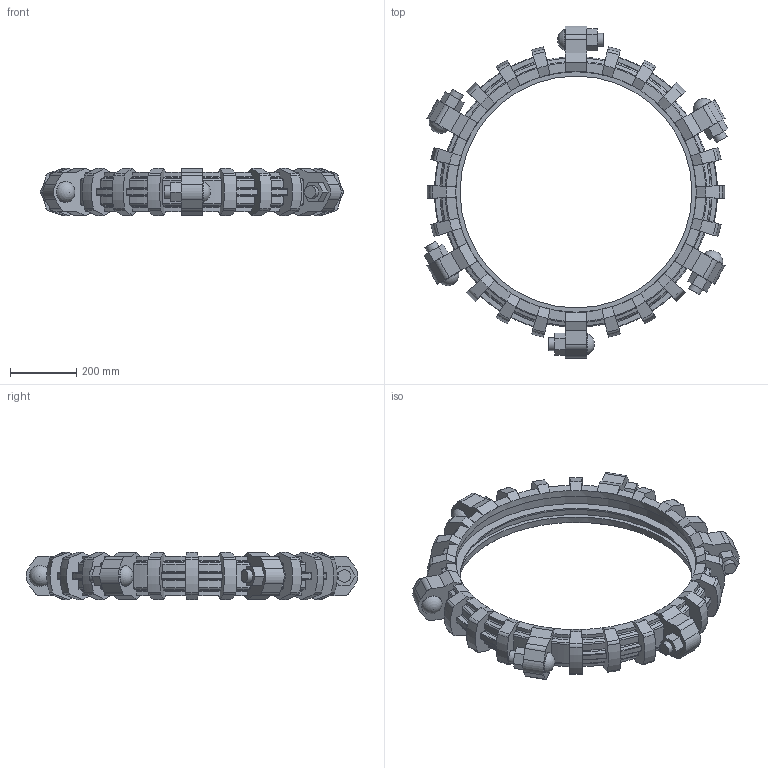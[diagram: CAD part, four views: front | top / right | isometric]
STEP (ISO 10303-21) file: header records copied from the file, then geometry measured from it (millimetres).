
FILE_DESCRIPTION(/* description */ ('VIC COUPLING STYLE 28','CAx-IF Rec.Pracs.---Representation and Presentation of Product Manufacturing Information (PMI)---4.0---2014-10-13'),/* implementation_level */ '2;1');
FILE_NAME(/* name */ 'C:\Users\kkamble\Desktop\KIRAN\2021\style 28\INVENTOR\Victaulic_Vic-Ring_Coupling Flexible_Style 28 (OGR)\Victaulic_Vic-Ring_Coupling Flexible_Style 28 (OGR)_27 (675).stp',/* time_stamp */ '2021-02-09T11:57:39+05:00',/* author */ ('jbrannon'),/* organization */ ('Victaulic'),/* preprocessor_version */ 'ST-DEVELOPER v17.2',/* originating_system */ 'Autodesk Inventor 2019',/* authorisation */ '');
FILE_SCHEMA (('AP242_MANAGED_MODEL_BASED_3D_ENGINEERING_MIM_LF { 1 0 10303 442 1 1 4 }'));
Length unit declared in the file: inch
Products named in the file (1): 28-27.0
Bounding box: 915.98 x 1000.45 x 142.24 mm (x, y, z)
Volume: 18359413.3 mm3; surface area: 1567051.3 mm2
Topology: 1 solids, 7 shells, 717 faces, 2023 edges, 1334 vertices
Faces by surface type: plane 244, torus 198, cylinder 149, cone 120, sphere 6
Full cylindrical faces by diameter (mm): 38.1 x12, 63.5 x6, 698.5 x1, 724.916 x2, 749.3 x2
Entity records: 25112 total; most frequent: CARTESIAN_POINT 4854, DIRECTION 4441, ORIENTED_EDGE 4034, EDGE_CURVE 2017, AXIS2_PLACEMENT_3D 1765, VERTEX_POINT 1334, CIRCLE 1034, LINE 911
